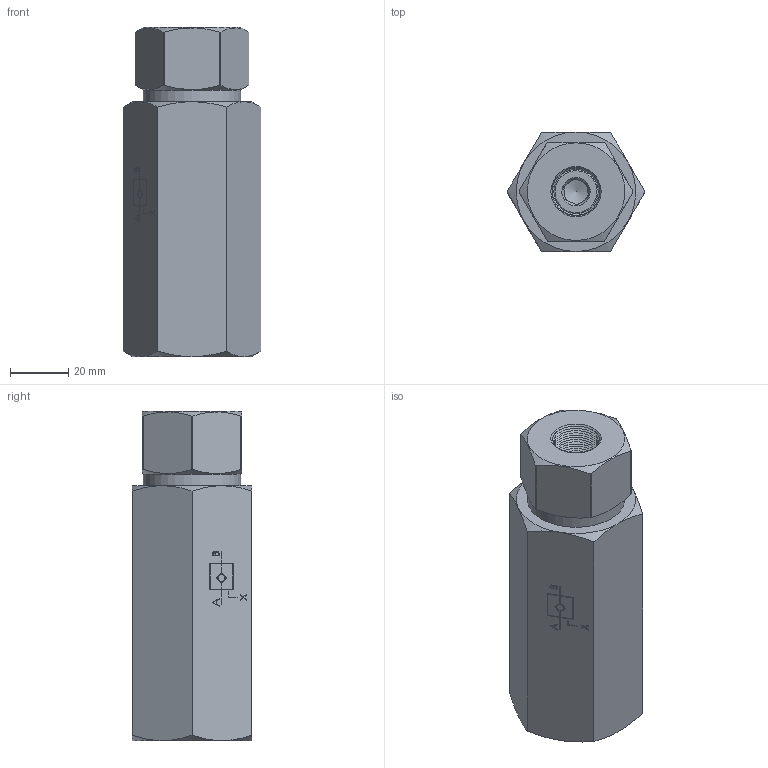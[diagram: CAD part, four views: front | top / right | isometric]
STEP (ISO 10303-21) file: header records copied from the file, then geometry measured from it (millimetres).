
FILE_DESCRIPTION (( 'STEP AP214' ), '1' );
FILE_NAME ('257-7-38.STEP', '2025-01-23T08:30:29', ( '' ), ( '' ), 'SwSTEP 2.0', 'SolidWorks 2024', '' );
FILE_SCHEMA (( 'AUTOMOTIVE_DESIGN' ));
Length unit declared in the file: millimetre
Products named in the file (9): PISTONE PILOTAGGIO 257-7.019.00.1-38; FONDELLO FILETTATO 257-5.010.00.0-38; MOLLA 2 BAR  257-6.009.00.0-38_COMPRESSA; CONNESSIONE UNIDIREZIONALE 257-7.033.00.0-38; VALVOLA TENUTA METALLICA 257-5.008.00.1-38; VALVOLA UNIDIREZIONALE PILOTATA 257-7.041.00.0-38; 257-7-38; CORPO VALVOLA 257-7.001.00.0-38; OR 3100
Assembly tree (9 placements, depth 3):
  257-7-38
    CORPO VALVOLA 257-7.001.00.0-38
    OR 3100
    PISTONE PILOTAGGIO 257-7.019.00.1-38
    VALVOLA UNIDIREZIONALE PILOTATA 257-7.041.00.0-38
      CONNESSIONE UNIDIREZIONALE 257-7.033.00.0-38
      OR 3100
      FONDELLO FILETTATO 257-5.010.00.0-38
      VALVOLA TENUTA METALLICA 257-5.008.00.1-38
      MOLLA 2 BAR  257-6.009.00.0-38_COMPRESSA
Bounding box: 47.34 x 41 x 113 mm (x, y, z)
Volume: 131397.2 mm3; surface area: 43700.6 mm2
Topology: 8 solids, 8 shells, 653 faces, 1545 edges, 959 vertices
Faces by surface type: plane 264, cone 236, bspline 81, cylinder 69, torus 3
Full cylindrical faces by diameter (mm): 2.52 x1, 3.5 x6, 4.5 x5, 8.5 x1, 9 x2, 11 x1, 11.8 x1, 12.3 x3, 12.5 x1, 13 x5, 14 x4, 14.5 x6, 15 x1, 15.25 x1, 17.2 x1, 19 x1, 20.5 x1, 23.2 x3, 24 x5, 25 x2, 25.5 x2, 33.5 x1
Entity records: 23381 total; most frequent: CARTESIAN_POINT 9921, DIRECTION 2500, ORIENTED_EDGE 2454, EDGE_CURVE 1227, EDGE_LOOP 1006, AXIS2_PLACEMENT_3D 940, VERTEX_POINT 915, FACE_OUTER_BOUND 709
